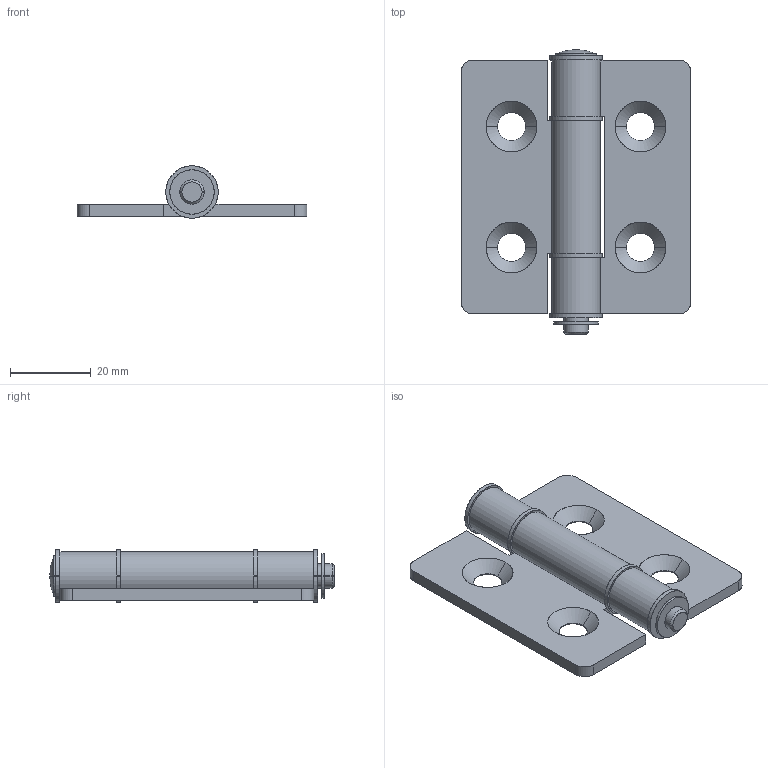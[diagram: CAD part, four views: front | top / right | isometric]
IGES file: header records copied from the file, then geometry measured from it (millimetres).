
Start section: SolidWorks IGES file using analytic representation for surfaces
Global section: file name: C:\Users\admin\Desktop\IGES\J3HS.igs; native system: SolidWorks 2014; preprocessor: SolidWorks 2014; author: admin_pc; date: 170524.165909; units: millimetre
Bounding box: 57 x 70.5 x 13 mm (x, y, z)
Surface area: 12556.6 mm2 (no closed solid volume)
Topology: 0 solids, 0 shells, 86 faces, 1746 edges, 1744 vertices
Faces by surface type: revolution 55, bspline 31
